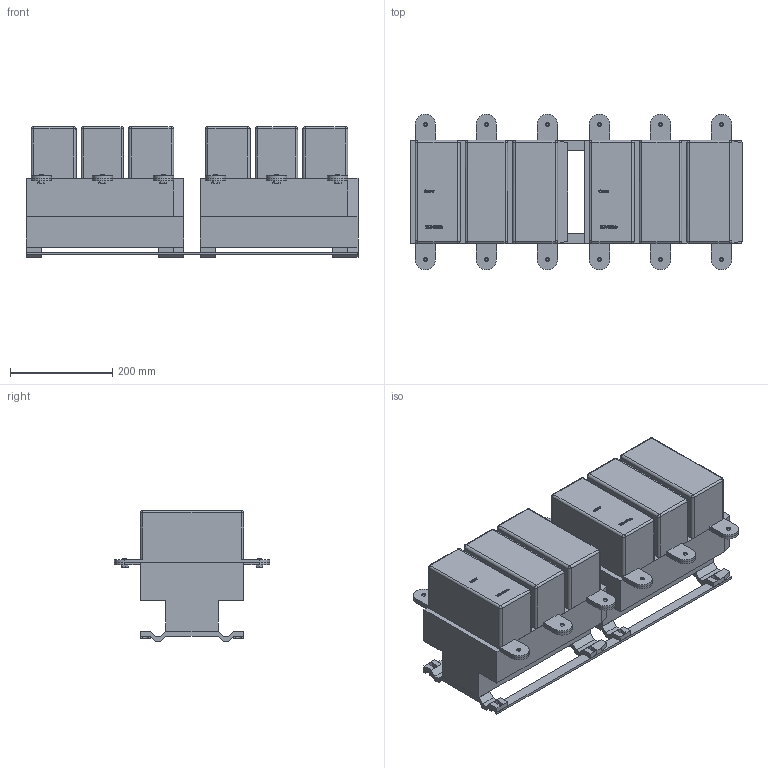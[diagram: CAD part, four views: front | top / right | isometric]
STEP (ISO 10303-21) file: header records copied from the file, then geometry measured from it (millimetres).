
FILE_DESCRIPTION(/* description */ (''),/* implementation_level */ '2;1');
FILE_NAME(/* name */ 'D:\CHINT2\NC2-N\NC2-630Ns 230В 50Гц (горизонтальная установка).stp',/* time_stamp */ '2017-11-12T21:25:56+03:00',/* author */ ('RSagdiev'),/* organization */ (''),/* preprocessor_version */ 'ST-DEVELOPER v16.5',/* originating_system */ 'Autodesk Inventor 2017',/* authorisation */ '');
FILE_SCHEMA (('AUTOMOTIVE_DESIGN { 1 0 10303 214 3 1 1 }'));
Length unit declared in the file: millimetre
Products named in the file (1): NC2-630Ns 230В 50Гц (\X2\0433043E044004380437
043E043D04420430043B044C043D0430044F\X0\ \X2\0443044104420430043D043E0432
043A0430\X0\)
Bounding box: 650 x 304 x 256.1 mm (x, y, z)
Volume: 24338319.8 mm3; surface area: 1308143.6 mm2
Topology: 38 solids, 38 shells, 944 faces, 2480 edges, 1628 vertices
Faces by surface type: plane 596, bspline 256, cylinder 92
Entity records: 31361 total; most frequent: CARTESIAN_POINT 9497, ORIENTED_EDGE 4928, DIRECTION 3630, EDGE_CURVE 2464, LINE 1772, VECTOR 1772, VERTEX_POINT 1628, EDGE_LOOP 992
